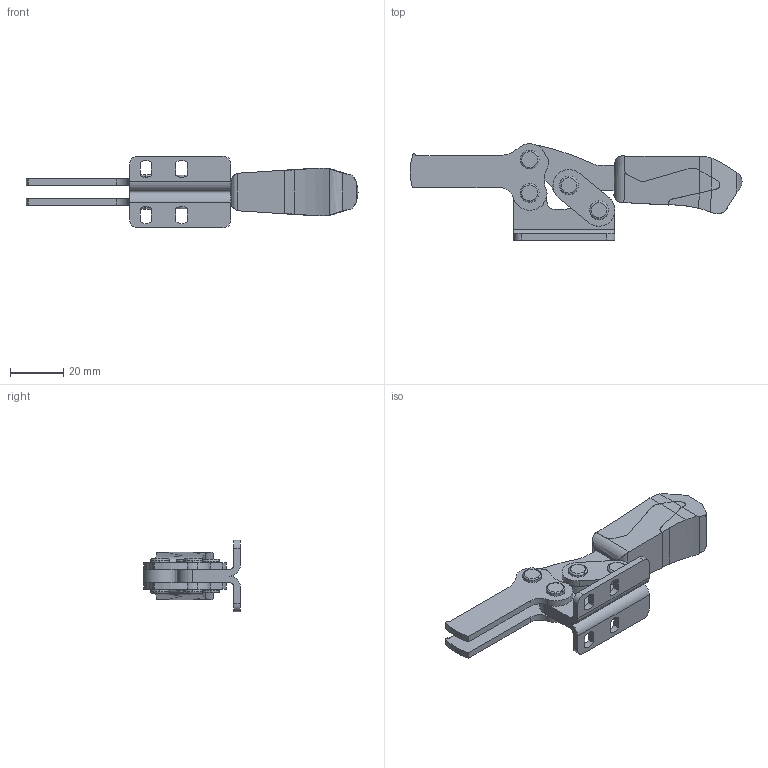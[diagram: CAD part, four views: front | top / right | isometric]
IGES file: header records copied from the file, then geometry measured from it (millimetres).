
Start section: 3D InterOp IGES (v. 2019 1.0.1), Spatial Corp. Copyright (c) 1999-2017.
Global section: file name: HWS201_1.igs; native system: Spatial Corp.; preprocessor: 3D InterOp GENERIC/IGES 3.0; author: Noname; organization: Noname; date: 20200706.112139; units: metre
Bounding box: 124.75 x 36.25 x 27 mm (x, y, z)
Surface area: 14979.1 mm2 (no closed solid volume)
Topology: 0 solids, 0 shells, 221 faces, 1190 edges, 1190 vertices
Faces by surface type: revolution 129, extrusion 92
